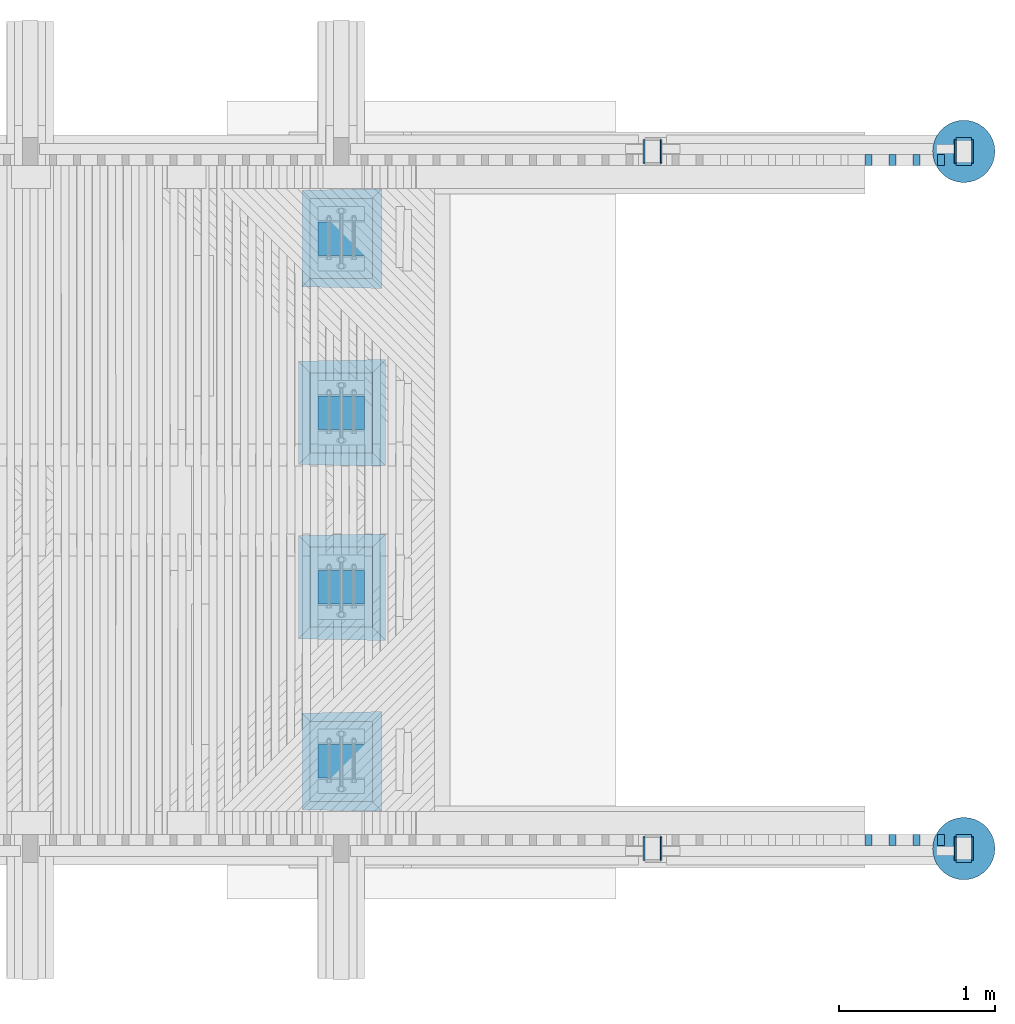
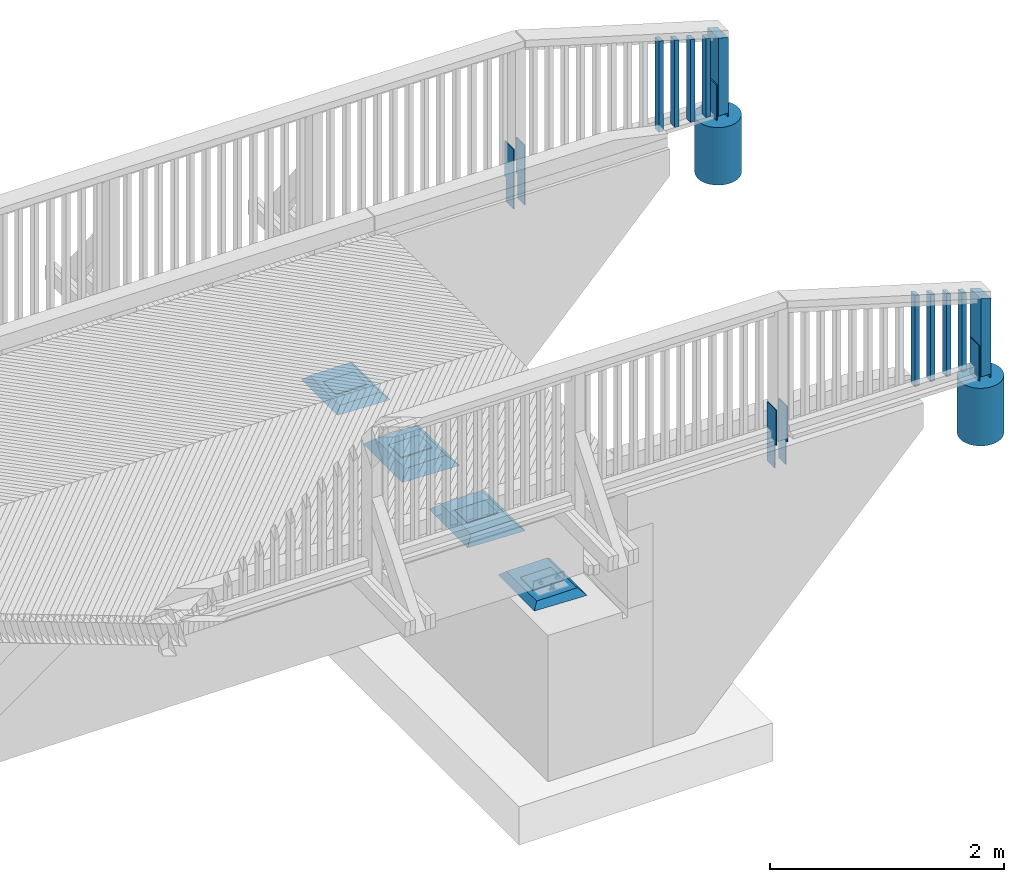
# One storey, part 13 of 53: 28 columns.
"""IFC2X3 building model written with IfcOpenShell, lengths in millimetres."""

from ifc_helpers import new_model, si_unit, frame, origin_with_axes, place, context, subcontext, project, spatial, faceted_brep, material, type_object, element, save


model = new_model("IFC2X3")

# Units and contexts
model_context = context("Model", 3, precision=1e-05, world=origin_with_axes())
body_context = subcontext(model_context, "Body", "Model", "MODEL_VIEW")
ifc_project = project(units=[si_unit("LENGTHUNIT", "METRE", prefix="MILLI"), si_unit("AREAUNIT", "SQUARE_METRE"), si_unit("VOLUMEUNIT", "CUBIC_METRE"), si_unit("MASSUNIT", "GRAM", prefix="KILO"), si_unit("TIMEUNIT", "SECOND"), si_unit("PLANEANGLEUNIT", "RADIAN"), si_unit("SOLIDANGLEUNIT", "STERADIAN"), si_unit("THERMODYNAMICTEMPERATUREUNIT", "DEGREE_CELSIUS"), si_unit("LUMINOUSINTENSITYUNIT", "LUMEN")], contexts=[model_context])

# Site, building, storey
site_placement = place(None, origin_with_axes())
site = spatial("IfcSite", under=ifc_project, at=site_placement, Name="Undefined", CompositionType="ELEMENT")
building_placement = place(site_placement, origin_with_axes())
building = spatial("IfcBuilding", under=site, at=building_placement, Name="Undefined", CompositionType="ELEMENT")
storey_placement = place(building_placement, origin_with_axes())
storey = spatial("IfcBuildingStorey", under=building, at=storey_placement, Name="Undefined", CompositionType="ELEMENT", Elevation=0.0)

# Columns
ifc_material_1 = material(Name="STEEL/AISI316")
column_type_1 = type_object("IfcColumnType", Name="PL150*10", PredefinedType="NOTDEFINED")
for number, where, z_axis, x_axis in (
    (1, (19944.9999998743, 44605.0000000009, 2794.56000000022), (0.0, -1.0, 0.0), (0.0, 0.0, 1.0)),
    (2, (17944.9999998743, 44605.0000000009, 2822.67000000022), (0.0, -1.0, 0.0), (0.0, 0.0, 1.0)),
):
    element("IfcColumn", number, at=place(storey_placement, frame(where, z_axis=z_axis, x_axis=x_axis)), inside=storey, type_object=column_type_1, material=ifc_material_1, Name="KAIDEPYLVÄS", ObjectType="PL150*10", context=body_context, shape_type="Brep", body=[
        faceted_brep([(0.0, -5.0, -50.0), (0.0, 5.0, -50.0), (250.0, 5.0, -50.0000000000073), (250.0, -5.0, -50.0000000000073), (250.0, -5.0, -75.0), (250.0, 5.0, -75.0), (0.0, 5.0, 75.0), (0.0, -5.0, 75.0), (620.0, -5.0, 75.0), (620.0, 5.0, 75.0), (620.0, -5.0, -75.0), (620.0, 5.0, -75.0)], [[[0, 1, 2, 3]], [[4, 3, 2, 5]], [[6, 7, 8, 9]], [[8, 10, 11, 9]], [[11, 10, 4, 5]], [[1, 6, 9, 11, 5, 2]], [[7, 6, 1, 0]], [[10, 8, 7, 0, 3, 4]]]),
    ])
for number, where, z_axis, x_axis in (
    (3, (19944.9999998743, 40125.0, 2794.56000000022), (0.0, 1.0, 0.0), (0.0, 0.0, 1.0)),
    (4, (17944.9999998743, 40125.0, 2822.67000000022), (0.0, 1.0, 0.0), (0.0, 0.0, 1.0)),
):
    element("IfcColumn", number, at=place(storey_placement, frame(where, z_axis=z_axis, x_axis=x_axis)), inside=storey, type_object=column_type_1, material=ifc_material_1, Name="KAIDEPYLVÄS", ObjectType="PL150*10", context=body_context, shape_type="Brep", body=[
        faceted_brep([(0.0, -5.0, -50.0), (0.0, 5.0, -50.0), (250.0, 5.0, -50.0000000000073), (250.0, -5.0, -50.0000000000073), (250.0, -5.0, -75.0), (250.0, 5.0, -75.0), (620.0, -5.0, 75.0), (620.0, -5.0, -75.0), (620.0, 5.0, -75.0), (620.0, 5.0, 75.0), (0.0, 5.0, 75.0), (0.0, -5.0, 75.0)], [[[0, 1, 2, 3]], [[4, 3, 2, 5]], [[6, 7, 8, 9]], [[10, 11, 6, 9]], [[11, 10, 1, 0]], [[7, 6, 11, 0, 3, 4]], [[8, 7, 4, 5]], [[1, 10, 9, 8, 5, 2]]]),
    ])
for number, where, z_axis, x_axis in (
    (5, (20054.9999998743, 44605.0000000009, 2794.56000000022), (0.0, -1.0, 0.0), (0.0, 0.0, 1.0)),
    (6, (18054.9999998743, 44605.0000000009, 2822.67000000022), (0.0, -1.0, 0.0), (0.0, 0.0, 1.0)),
):
    element("IfcColumn", number, at=place(storey_placement, frame(where, z_axis=z_axis, x_axis=x_axis)), inside=storey, type_object=column_type_1, material=ifc_material_1, Name="KAIDEPYLVÄS", ObjectType="PL150*10", context=body_context, shape_type="Brep", body=[
        faceted_brep([(0.0, -5.0, -50.0), (0.0, 5.0, -50.0), (250.0, 5.0, -50.0000000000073), (250.0, -5.0, -50.0000000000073), (250.0, -5.0, -75.0), (250.0, 5.0, -75.0), (0.0, 5.0, 75.0), (0.0, -5.0, 75.0), (620.0, -5.0, 75.0), (620.0, 5.0, 75.0), (620.0, -5.0, -75.0), (620.0, 5.0, -75.0)], [[[0, 1, 2, 3]], [[4, 3, 2, 5]], [[6, 7, 8, 9]], [[8, 10, 11, 9]], [[11, 10, 4, 5]], [[1, 6, 9, 11, 5, 2]], [[7, 6, 1, 0]], [[10, 8, 7, 0, 3, 4]]]),
    ])
for number, where, z_axis, x_axis in (
    (7, (20054.9999998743, 40125.0, 2794.56000000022), (0.0, 1.0, 0.0), (0.0, 0.0, 1.0)),
    (8, (18054.9999998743, 40125.0, 2822.67000000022), (0.0, 1.0, 0.0), (0.0, 0.0, 1.0)),
):
    element("IfcColumn", number, at=place(storey_placement, frame(where, z_axis=z_axis, x_axis=x_axis)), inside=storey, type_object=column_type_1, material=ifc_material_1, Name="KAIDEPYLVÄS", ObjectType="PL150*10", context=body_context, shape_type="Brep", body=[
        faceted_brep([(0.0, -5.0, -50.0), (0.0, 5.0, -50.0), (250.0, 5.0, -50.0000000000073), (250.0, -5.0, -50.0000000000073), (250.0, -5.0, -75.0), (250.0, 5.0, -75.0), (620.0, -5.0, 75.0), (620.0, -5.0, -75.0), (620.0, 5.0, -75.0), (620.0, 5.0, 75.0), (0.0, 5.0, 75.0), (0.0, -5.0, 75.0)], [[[0, 1, 2, 3]], [[4, 3, 2, 5]], [[6, 7, 8, 9]], [[10, 11, 6, 9]], [[11, 10, 1, 0]], [[7, 6, 11, 0, 3, 4]], [[8, 7, 4, 5]], [[1, 10, 9, 8, 5, 2]]]),
    ])
ifc_material_2 = material(Name="TIMBER/Timber_Undefined")
column_type_2 = type_object("IfcColumnType", Name="180*100", PredefinedType="NOTDEFINED")
column_1_placement = place(storey_placement, frame((19999.9999992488, 44604.9879080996, 3109.68000000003), z_axis=(0.0, -1.0, 0.0), x_axis=(0.0, 0.0, 1.0)))
element("IfcColumn", 9, at=column_1_placement, inside=storey, type_object=column_type_2, material=ifc_material_2, Name="KAIDEPYLVÄS", ObjectType="180*100", context=body_context, shape_type="Brep", body=[
    faceted_brep([(-15.1200000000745, 50.0, -90.0), (-15.1200000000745, 50.0, 90.0), (800.720209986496, 50.0, 90.0), (800.720209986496, 50.0, -90.0), (-15.1200000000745, -50.0, 90.0), (771.050236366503, -50.0, 90.0), (-15.1200000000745, -50.0, -90.0), (771.050236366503, -50.0, -90.0)], [[[0, 1, 2, 3]], [[1, 4, 5, 2]], [[4, 6, 7, 5]], [[6, 0, 3, 7]], [[5, 7, 3, 2]], [[6, 4, 1, 0]]]),
])
column_2_placement = place(storey_placement, frame((19999.9999992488, 40125.0120919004, 3109.68000000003), z_axis=(0.0, 1.0, 0.0), x_axis=(0.0, 0.0, 1.0)))
element("IfcColumn", 10, at=column_2_placement, inside=storey, type_object=column_type_2, material=ifc_material_2, Name="KAIDEPYLVÄS", ObjectType="180*100", context=body_context, shape_type="Brep", body=[
    faceted_brep([(-15.1200000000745, 50.0, -90.0), (-15.1200000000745, 50.0, 90.0), (771.050236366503, 50.0, 90.0), (771.050236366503, 50.0, -90.0), (-15.1200000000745, -50.0, 90.0), (800.720209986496, -50.0, 90.0), (-15.1200000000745, -50.0, -90.0), (800.720209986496, -50.0, -90.0)], [[[0, 1, 2, 3]], [[1, 4, 5, 2]], [[4, 6, 7, 5]], [[6, 0, 3, 7]], [[5, 7, 3, 2]], [[6, 4, 1, 0]]]),
])
ifc_material_3 = material(Name="CONCRETE/Concrete_Undefined")
column_type_3 = type_object("IfcColumnType", Name="D400", PredefinedType="NOTDEFINED")
column_3_placement = place(storey_placement, frame((19999.9999995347, 44604.9858270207, 2444.55999999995), z_axis=(1.0, 0.0, 0.0), x_axis=(0.0, 0.0, 1.0)))
element("IfcColumn", 11, at=column_3_placement, inside=storey, type_object=column_type_3, material=ifc_material_3, Name="COLUMN", ObjectType="D400", context=body_context, shape_type="Brep", body=[
    faceted_brep([(0.0, -200.0, 0.0), (0.0, -196.961550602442, -34.7296355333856), (600.0, -196.961550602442, -34.7296355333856), (600.0, -200.0, 0.0), (0.0, -187.93852415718, -68.4040286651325), (600.0, -187.93852415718, -68.4040286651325), (0.0, -173.205080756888, -100.0), (600.0, -173.205080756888, -100.0), (0.0, -153.208888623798, -128.55752193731), (600.0, -153.208888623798, -128.55752193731), (0.0, -128.557521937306, -153.208888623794), (600.0, -128.557521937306, -153.208888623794), (0.0, -100.0, -173.205080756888), (600.0, -100.0, -173.205080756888), (0.0, -68.4040286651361, -187.93852415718), (600.0, -68.4040286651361, -187.93852415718), (0.0, -34.7296355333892, -196.961550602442), (600.0, -34.7296355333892, -196.961550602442), (0.0, 0.0, -200.0), (600.0, 0.0, -200.0), (0.0, 34.7296355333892, -196.961550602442), (600.0, 34.7296355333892, -196.961550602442), (0.0, 68.4040286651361, -187.93852415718), (600.0, 68.4040286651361, -187.93852415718), (0.0, 100.0, -173.205080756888), (600.0, 100.0, -173.205080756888), (0.0, 128.557521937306, -153.208888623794), (600.0, 128.557521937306, -153.208888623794), (0.0, 153.208888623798, -128.55752193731), (600.0, 153.208888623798, -128.55752193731), (0.0, 173.205080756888, -100.0), (600.0, 173.205080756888, -100.0), (0.0, 187.93852415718, -68.4040286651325), (600.0, 187.93852415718, -68.4040286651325), (0.0, 196.961550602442, -34.7296355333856), (600.0, 196.961550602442, -34.7296355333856), (0.0, 200.0, 0.0), (600.0, 200.0, 0.0), (0.0, 196.961550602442, 34.7296355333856), (600.0, 196.961550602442, 34.7296355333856), (0.0, 187.93852415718, 68.4040286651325), (600.0, 187.93852415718, 68.4040286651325), (0.0, 173.205080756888, 100.0), (600.0, 173.205080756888, 100.0), (0.0, 153.208888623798, 128.55752193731), (600.0, 153.208888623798, 128.55752193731), (0.0, 128.557521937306, 153.208888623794), (600.0, 128.557521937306, 153.208888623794), (0.0, 100.0, 173.205080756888), (600.0, 100.0, 173.205080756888), (0.0, 68.4040286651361, 187.93852415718), (600.0, 68.4040286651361, 187.93852415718), (0.0, 34.7296355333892, 196.961550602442), (600.0, 34.7296355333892, 196.961550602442), (0.0, 0.0, 200.0), (600.0, 0.0, 200.0), (0.0, -34.7296355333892, 196.961550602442), (600.0, -34.7296355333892, 196.961550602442), (0.0, -68.4040286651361, 187.93852415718), (600.0, -68.4040286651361, 187.93852415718), (0.0, -100.0, 173.205080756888), (600.0, -100.0, 173.205080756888), (0.0, -128.557521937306, 153.208888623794), (600.0, -128.557521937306, 153.208888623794), (0.0, -153.208888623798, 128.55752193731), (600.0, -153.208888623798, 128.55752193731), (0.0, -173.205080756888, 100.0), (600.0, -173.205080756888, 100.0), (0.0, -187.93852415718, 68.4040286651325), (600.0, -187.93852415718, 68.4040286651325), (0.0, -196.961550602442, 34.7296355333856), (600.0, -196.961550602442, 34.7296355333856)], [[[0, 1, 2, 3]], [[1, 4, 5, 2]], [[4, 6, 7, 5]], [[6, 8, 9, 7]], [[8, 10, 11, 9]], [[10, 12, 13, 11]], [[12, 14, 15, 13]], [[14, 16, 17, 15]], [[16, 18, 19, 17]], [[18, 20, 21, 19]], [[20, 22, 23, 21]], [[22, 24, 25, 23]], [[24, 26, 27, 25]], [[26, 28, 29, 27]], [[28, 30, 31, 29]], [[30, 32, 33, 31]], [[32, 34, 35, 33]], [[34, 36, 37, 35]], [[36, 38, 39, 37]], [[38, 40, 41, 39]], [[40, 42, 43, 41]], [[42, 44, 45, 43]], [[44, 46, 47, 45]], [[46, 48, 49, 47]], [[48, 50, 51, 49]], [[50, 52, 53, 51]], [[52, 54, 55, 53]], [[54, 56, 57, 55]], [[56, 58, 59, 57]], [[58, 60, 61, 59]], [[60, 62, 63, 61]], [[62, 64, 65, 63]], [[64, 66, 67, 65]], [[66, 68, 69, 67]], [[68, 70, 71, 69]], [[70, 0, 3, 71]], [[5, 7, 9, 11, 13, 15, 17, 19, 21, 23, 25, 27, 29, 31, 33, 35, 37, 39, 41, 43, 45, 47, 49, 51, 53, 55, 57, 59, 61, 63, 65, 67, 69, 71, 3, 2]], [[70, 68, 66, 64, 62, 60, 58, 56, 54, 52, 50, 48, 46, 44, 42, 40, 38, 36, 34, 32, 30, 28, 26, 24, 22, 20, 18, 16, 14, 12, 10, 8, 6, 4, 1, 0]]]),
])
column_4_placement = place(storey_placement, frame((19999.9999995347, 40125.0141729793, 2444.55999999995), z_axis=(1.0, 0.0, 0.0), x_axis=(0.0, 0.0, 1.0)))
element("IfcColumn", 12, at=column_4_placement, inside=storey, type_object=column_type_3, material=ifc_material_3, Name="COLUMN", ObjectType="D400", context=body_context, shape_type="Brep", body=[
    faceted_brep([(0.0, -200.0, 0.0), (0.0, -196.961550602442, -34.7296355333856), (600.0, -196.961550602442, -34.7296355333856), (600.0, -200.0, 0.0), (0.0, -187.93852415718, -68.4040286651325), (600.0, -187.93852415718, -68.4040286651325), (0.0, -173.205080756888, -100.0), (600.0, -173.205080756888, -100.0), (0.0, -153.208888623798, -128.55752193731), (600.0, -153.208888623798, -128.55752193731), (0.0, -128.557521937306, -153.208888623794), (600.0, -128.557521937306, -153.208888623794), (0.0, -100.0, -173.205080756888), (600.0, -100.0, -173.205080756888), (0.0, -68.4040286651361, -187.93852415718), (600.0, -68.4040286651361, -187.93852415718), (0.0, -34.7296355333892, -196.961550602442), (600.0, -34.7296355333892, -196.961550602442), (0.0, 0.0, -200.0), (600.0, 0.0, -200.0), (0.0, 34.7296355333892, -196.961550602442), (600.0, 34.7296355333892, -196.961550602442), (0.0, 68.4040286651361, -187.93852415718), (600.0, 68.4040286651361, -187.93852415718), (0.0, 100.0, -173.205080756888), (600.0, 100.0, -173.205080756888), (0.0, 128.557521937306, -153.208888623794), (600.0, 128.557521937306, -153.208888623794), (0.0, 153.208888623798, -128.55752193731), (600.0, 153.208888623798, -128.55752193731), (0.0, 173.205080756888, -100.0), (600.0, 173.205080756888, -100.0), (0.0, 187.93852415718, -68.4040286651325), (600.0, 187.93852415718, -68.4040286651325), (0.0, 196.961550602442, -34.7296355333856), (600.0, 196.961550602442, -34.7296355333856), (0.0, 200.0, 0.0), (600.0, 200.0, 0.0), (0.0, 196.961550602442, 34.7296355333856), (600.0, 196.961550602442, 34.7296355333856), (0.0, 187.93852415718, 68.4040286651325), (600.0, 187.93852415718, 68.4040286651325), (0.0, 173.205080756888, 100.0), (600.0, 173.205080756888, 100.0), (0.0, 153.208888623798, 128.55752193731), (600.0, 153.208888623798, 128.55752193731), (0.0, 128.557521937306, 153.208888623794), (600.0, 128.557521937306, 153.208888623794), (0.0, 100.0, 173.205080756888), (600.0, 100.0, 173.205080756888), (0.0, 68.4040286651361, 187.93852415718), (600.0, 68.4040286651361, 187.93852415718), (0.0, 34.7296355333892, 196.961550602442), (600.0, 34.7296355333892, 196.961550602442), (0.0, 0.0, 200.0), (600.0, 0.0, 200.0), (0.0, -34.7296355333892, 196.961550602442), (600.0, -34.7296355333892, 196.961550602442), (0.0, -68.4040286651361, 187.93852415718), (600.0, -68.4040286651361, 187.93852415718), (0.0, -100.0, 173.205080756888), (600.0, -100.0, 173.205080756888), (0.0, -128.557521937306, 153.208888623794), (600.0, -128.557521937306, 153.208888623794), (0.0, -153.208888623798, 128.55752193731), (600.0, -153.208888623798, 128.55752193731), (0.0, -173.205080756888, 100.0), (600.0, -173.205080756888, 100.0), (0.0, -187.93852415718, 68.4040286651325), (600.0, -187.93852415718, 68.4040286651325), (0.0, -196.961550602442, 34.7296355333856), (600.0, -196.961550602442, 34.7296355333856)], [[[0, 1, 2, 3]], [[1, 4, 5, 2]], [[4, 6, 7, 5]], [[6, 8, 9, 7]], [[8, 10, 11, 9]], [[10, 12, 13, 11]], [[12, 14, 15, 13]], [[14, 16, 17, 15]], [[16, 18, 19, 17]], [[18, 20, 21, 19]], [[20, 22, 23, 21]], [[22, 24, 25, 23]], [[24, 26, 27, 25]], [[26, 28, 29, 27]], [[28, 30, 31, 29]], [[30, 32, 33, 31]], [[32, 34, 35, 33]], [[34, 36, 37, 35]], [[36, 38, 39, 37]], [[38, 40, 41, 39]], [[40, 42, 43, 41]], [[42, 44, 45, 43]], [[44, 46, 47, 45]], [[46, 48, 49, 47]], [[48, 50, 51, 49]], [[50, 52, 53, 51]], [[52, 54, 55, 53]], [[54, 56, 57, 55]], [[56, 58, 59, 57]], [[58, 60, 61, 59]], [[60, 62, 63, 61]], [[62, 64, 65, 63]], [[64, 66, 67, 65]], [[66, 68, 69, 67]], [[68, 70, 71, 69]], [[70, 0, 3, 71]], [[5, 7, 9, 11, 13, 15, 17, 19, 21, 23, 25, 27, 29, 31, 33, 35, 37, 39, 41, 43, 45, 47, 49, 51, 53, 55, 57, 59, 61, 63, 65, 67, 69, 71, 3, 2]], [[70, 68, 66, 64, 62, 60, 58, 56, 54, 52, 50, 48, 46, 44, 42, 40, 38, 36, 34, 32, 30, 28, 26, 24, 22, 20, 18, 16, 14, 12, 10, 8, 6, 4, 1, 0]]]),
])
column_type_4 = type_object("IfcColumnType", Name="70*45", PredefinedType="NOTDEFINED")
column_5_placement = place(storey_placement, frame((19387.4999992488, 44549.9879080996, 3079.15), z_axis=(0.0, 1.0, 0.0), x_axis=(0.0, 0.0, 1.0)))
element("IfcColumn", 13, at=column_5_placement, inside=storey, type_object=column_type_4, material=ifc_material_2, Name="BEAM", ObjectType="70*45", context=body_context, shape_type="Brep", body=[
    faceted_brep([(49.8204606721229, 22.5, -35.0), (49.8204606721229, 22.5, 35.0), (992.288494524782, 22.5, 35.0), (992.288494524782, 22.5, -35.0), (50.5074580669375, -22.5, 35.0), (1005.72400020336, -22.5, 35.0), (50.5074580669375, -22.5, -35.0), (1005.72400020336, -22.5, -35.0)], [[[0, 1, 2, 3]], [[1, 4, 5, 2]], [[4, 6, 7, 5]], [[6, 0, 3, 7]], [[5, 7, 3, 2]], [[6, 4, 1, 0]]]),
])
column_6_placement = place(storey_placement, frame((19542.4999992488, 44549.9879080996, 3079.15), z_axis=(0.0, 1.0, 0.0), x_axis=(0.0, 0.0, 1.0)))
element("IfcColumn", 14, at=column_6_placement, inside=storey, type_object=column_type_4, material=ifc_material_2, Name="BEAM", ObjectType="70*45", context=body_context, shape_type="Brep", body=[
    faceted_brep([(47.4541363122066, 22.5, -35.0), (47.4541363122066, 22.5, 35.0), (946.010641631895, 22.5, 35.0), (946.010641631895, 22.5, -35.0), (48.1411337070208, -22.5, 35.0), (959.446147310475, -22.5, 35.0), (48.1411337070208, -22.5, -35.0), (959.446147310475, -22.5, -35.0)], [[[0, 1, 2, 3]], [[1, 4, 5, 2]], [[4, 6, 7, 5]], [[6, 0, 3, 7]], [[5, 7, 3, 2]], [[6, 4, 1, 0]]]),
])
column_7_placement = place(storey_placement, frame((19697.4999992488, 44549.9879080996, 3079.15), z_axis=(0.0, 1.0, 0.0), x_axis=(0.0, 0.0, 1.0)))
element("IfcColumn", 15, at=column_7_placement, inside=storey, type_object=column_type_4, material=ifc_material_2, Name="BEAM", ObjectType="70*45", context=body_context, shape_type="Brep", body=[
    faceted_brep([(45.0878119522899, 22.5, -35.0), (45.0878119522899, 22.5, 35.0), (899.732788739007, 22.5, 35.0), (899.732788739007, 22.5, -35.0), (45.7748093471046, -22.5, 35.0), (913.168294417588, -22.5, 35.0), (45.7748093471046, -22.5, -35.0), (913.168294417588, -22.5, -35.0)], [[[0, 1, 2, 3]], [[1, 4, 5, 2]], [[4, 6, 7, 5]], [[6, 0, 3, 7]], [[5, 7, 3, 2]], [[6, 4, 1, 0]]]),
])
column_8_placement = place(storey_placement, frame((19852.4999992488, 44549.9879080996, 3079.15), z_axis=(0.0, 1.0, 0.0), x_axis=(0.0, 0.0, 1.0)))
element("IfcColumn", 16, at=column_8_placement, inside=storey, type_object=column_type_4, material=ifc_material_2, Name="BEAM", ObjectType="70*45", context=body_context, shape_type="Brep", body=[
    faceted_brep([(42.7214875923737, 22.5, -35.0), (42.7214875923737, 22.5, 35.0), (853.45493584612, 22.5, 35.0), (853.45493584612, 22.5, -35.0), (43.4084849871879, -22.5, 35.0), (866.8904415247, -22.5, 35.0), (43.4084849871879, -22.5, -35.0), (866.8904415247, -22.5, -35.0)], [[[0, 1, 2, 3]], [[1, 4, 5, 2]], [[4, 6, 7, 5]], [[6, 0, 3, 7]], [[5, 7, 3, 2]], [[6, 4, 1, 0]]]),
])
column_9_placement = place(storey_placement, frame((19387.4999992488, 40180.0120919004, 3079.15), z_axis=(0.0, -1.0, 0.0), x_axis=(0.0, 0.0, 1.0)))
element("IfcColumn", 17, at=column_9_placement, inside=storey, type_object=column_type_4, material=ifc_material_2, Name="BEAM", ObjectType="70*45", context=body_context, shape_type="Brep", body=[
    faceted_brep([(50.5074580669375, 22.5, -35.0), (50.5074580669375, 22.5, 35.0), (1005.72400020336, 22.5, 35.0), (1005.72400020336, 22.5, -35.0), (49.8204606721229, -22.5, 35.0), (992.288494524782, -22.5, 35.0), (49.8204606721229, -22.5, -35.0), (992.288494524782, -22.5, -35.0)], [[[0, 1, 2, 3]], [[1, 4, 5, 2]], [[4, 6, 7, 5]], [[6, 0, 3, 7]], [[5, 7, 3, 2]], [[6, 4, 1, 0]]]),
])
column_10_placement = place(storey_placement, frame((19542.4999992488, 40180.0120919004, 3079.15), z_axis=(0.0, -1.0, 0.0), x_axis=(0.0, 0.0, 1.0)))
element("IfcColumn", 18, at=column_10_placement, inside=storey, type_object=column_type_4, material=ifc_material_2, Name="BEAM", ObjectType="70*45", context=body_context, shape_type="Brep", body=[
    faceted_brep([(48.1411337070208, 22.5, -35.0), (48.1411337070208, 22.5, 35.0), (959.446147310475, 22.5, 35.0), (959.446147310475, 22.5, -35.0), (47.4541363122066, -22.5, 35.0), (946.010641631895, -22.5, 35.0), (47.4541363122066, -22.5, -35.0), (946.010641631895, -22.5, -35.0)], [[[0, 1, 2, 3]], [[1, 4, 5, 2]], [[4, 6, 7, 5]], [[6, 0, 3, 7]], [[5, 7, 3, 2]], [[6, 4, 1, 0]]]),
])
column_11_placement = place(storey_placement, frame((19697.4999992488, 40180.0120919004, 3079.15), z_axis=(0.0, -1.0, 0.0), x_axis=(0.0, 0.0, 1.0)))
element("IfcColumn", 19, at=column_11_placement, inside=storey, type_object=column_type_4, material=ifc_material_2, Name="BEAM", ObjectType="70*45", context=body_context, shape_type="Brep", body=[
    faceted_brep([(45.7748093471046, 22.5, -35.0), (45.7748093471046, 22.5, 35.0), (913.168294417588, 22.5, 35.0), (913.168294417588, 22.5, -35.0), (45.0878119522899, -22.5, 35.0), (899.732788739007, -22.5, 35.0), (45.0878119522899, -22.5, -35.0), (899.732788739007, -22.5, -35.0)], [[[0, 1, 2, 3]], [[1, 4, 5, 2]], [[4, 6, 7, 5]], [[6, 0, 3, 7]], [[5, 7, 3, 2]], [[6, 4, 1, 0]]]),
])
column_12_placement = place(storey_placement, frame((19852.4999992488, 40180.0120919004, 3079.15), z_axis=(0.0, -1.0, 0.0), x_axis=(0.0, 0.0, 1.0)))
element("IfcColumn", 20, at=column_12_placement, inside=storey, type_object=column_type_4, material=ifc_material_2, Name="BEAM", ObjectType="70*45", context=body_context, shape_type="Brep", body=[
    faceted_brep([(43.4084849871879, 22.5, -35.0), (43.4084849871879, 22.5, 35.0), (866.8904415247, 22.5, 35.0), (866.8904415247, 22.5, -35.0), (42.7214875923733, -22.5, 35.0), (853.45493584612, -22.5, 35.0), (42.7214875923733, -22.5, -35.0), (853.45493584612, -22.5, -35.0)], [[[0, 1, 2, 3]], [[1, 4, 5, 2]], [[4, 6, 7, 5]], [[6, 0, 3, 7]], [[5, 7, 3, 2]], [[6, 4, 1, 0]]]),
])
column_type_5 = type_object("IfcColumnType", Name="570*685", PredefinedType="NOTDEFINED")
for number, where, z_axis, x_axis, name in (
    (21, (16000.0, 42925.0000000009, 1922.0), (1.0, 0.0, 0.0), (0.0, 0.0, 1.0), "COLUMN"),
    (22, (16000.0, 41805.0, 1922.0), (1.0, 0.0, 0.0), (0.0, 0.0, 1.0), "COLUMN"),
):
    element("IfcColumn", number, at=place(storey_placement, frame(where, z_axis=z_axis, x_axis=x_axis)), inside=storey, type_object=column_type_5, material=ifc_material_3, Name=name, ObjectType="570*685", context=body_context, shape_type="Brep", body=[
        faceted_brep([(-9.52281374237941, -342.5, 285.0), (75.3299999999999, -257.647186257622, 200.147186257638), (75.3299999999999, 257.647186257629, 200.147186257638), (-9.52281374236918, 342.5, 285.0), (75.3299999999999, -257.647186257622, -200.147186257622), (0.770343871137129, -332.206842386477, -274.706842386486), (0.770343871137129, 332.206842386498, -274.706842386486), (75.3299999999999, 257.647186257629, -200.147186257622), (-9.52281374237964, -342.5, 229.65787209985), (-10.6522449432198, -342.5, 285.0), (-10.6522449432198, 342.5, 285.0), (-9.52281374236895, 342.5, 229.657872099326)], [[[0, 1, 2, 3]], [[4, 5, 6, 7]], [[5, 8, 9, 10, 11, 6]], [[9, 8, 0]], [[10, 9, 0, 3]], [[10, 3, 11]], [[7, 6, 11, 3, 2]], [[4, 7, 2, 1]], [[8, 5, 4, 1, 0]]]),
    ])
column_type_6 = type_object("IfcColumnType", Name="524*639", PredefinedType="NOTDEFINED")
for number, where, z_axis, x_axis, name in (
    (23, (16000.0, 44045.0000000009, 1900.0), (1.0, 0.0, 0.0), (0.0, 0.0, 1.0), "COLUMN"),
    (24, (16000.0, 40685.0, 1900.0), (1.0, 0.0, 0.0), (0.0, 0.0, 1.0), "COLUMN"),
):
    element("IfcColumn", number, at=place(storey_placement, frame(where, z_axis=z_axis, x_axis=x_axis)), inside=storey, type_object=column_type_6, material=ifc_material_3, Name=name, ObjectType="524*639", context=body_context, shape_type="Brep", body=[
        faceted_brep([(13.1046032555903, -319.5, 262.0), (75.3299999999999, -257.274603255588, 199.774603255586), (75.3299999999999, 257.274603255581, 199.774603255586), (13.1046032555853, 319.5, 262.0), (75.3299999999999, -257.274603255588, -199.774603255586), (22.3220922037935, -310.282511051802, -252.782511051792), (22.3220922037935, 310.282511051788, -252.782511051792), (75.3299999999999, 257.274603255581, -199.774603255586), (13.1046032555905, -319.5, 198.874439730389), (11.816326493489, -319.5, 262.0), (11.816326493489, 319.5, 262.0), (13.1046032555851, 319.5, 198.874439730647)], [[[0, 1, 2, 3]], [[4, 5, 6, 7]], [[5, 8, 9, 10, 11, 6]], [[9, 8, 0]], [[10, 9, 0, 3]], [[10, 3, 11]], [[7, 6, 11, 3, 2]], [[4, 7, 2, 1]], [[8, 5, 4, 1, 0]]]),
    ])
ifc_material_4 = material(Name="MISCELLANEOUS/NEOPREENI")
column_type_7 = type_object("IfcColumnType", Name="PL300*215", PredefinedType="NOTDEFINED")
for number, where, z_axis, x_axis, name in (
    (25, (16000.0, 44045.0, 1975.33), (1.0, 0.0, 0.0), (0.0, 0.0, 1.0), "COLUMN"),
    (26, (16000.0, 42925.0, 1997.33), (1.0, 0.0, 0.0), (0.0, 0.0, 1.0), "COLUMN"),
    (27, (16000.0, 41805.0, 1997.33), (1.0, 0.0, 0.0), (0.0, 0.0, 1.0), "COLUMN"),
    (28, (16000.0, 40685.0, 1975.33), (1.0, 0.0, 0.0), (0.0, 0.0, 1.0), "COLUMN"),
):
    element("IfcColumn", number, at=place(storey_placement, frame(where, z_axis=z_axis, x_axis=x_axis)), inside=storey, type_object=column_type_7, material=ifc_material_4, Name=name, ObjectType="PL300*215", context=body_context, shape_type="Brep", body=[
        faceted_brep([(0.0, 107.5, -150.0), (0.0, 107.5, 150.0), (10.0, 107.5, 150.0), (10.0, 107.5, -150.0), (0.0, -107.5, 150.0), (10.0, -107.5, 150.0), (0.0, -107.5, -150.0), (10.0, -107.5, -150.0)], [[[0, 1, 2, 3]], [[1, 4, 5, 2]], [[4, 6, 7, 5]], [[6, 0, 3, 7]], [[5, 7, 3, 2]], [[6, 4, 1, 0]]]),
    ])

save(model, "model.ifc")
